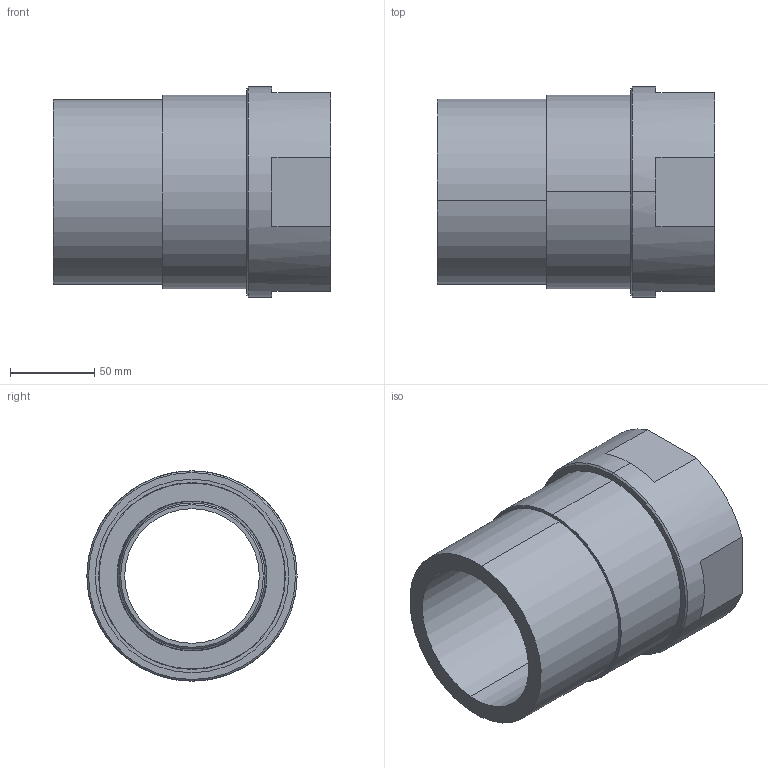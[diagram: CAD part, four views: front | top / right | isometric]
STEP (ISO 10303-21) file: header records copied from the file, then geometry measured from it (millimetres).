
FILE_DESCRIPTION (( 'STEP AP214' ), '1' );
FILE_NAME ('KP_C17-110F.step', '2012-09-03T10:40:14', ( 'robinj' ), ( 'Microsoft' ), 'SwSTEP 2.0', 'SolidWorks 2012', '' );
FILE_SCHEMA (( 'AUTOMOTIVE_DESIGN' ));
Length unit declared in the file: millimetre
Products named in the file (1): KP_C17-110F
Bounding box: 165 x 125 x 125 mm (x, y, z)
Volume: 628723 mm3; surface area: 190059.3 mm2
Topology: 3 solids, 3 shells, 60 faces, 128 edges, 78 vertices
Faces by surface type: cylinder 20, plane 18, cone 16, torus 6
Entity records: 2356 total; most frequent: DIRECTION 326, CARTESIAN_POINT 267, ORIENTED_EDGE 256, AXIS2_PLACEMENT_3D 137, EDGE_CURVE 128, VERTEX_POINT 78, CIRCLE 76, EDGE_LOOP 70
